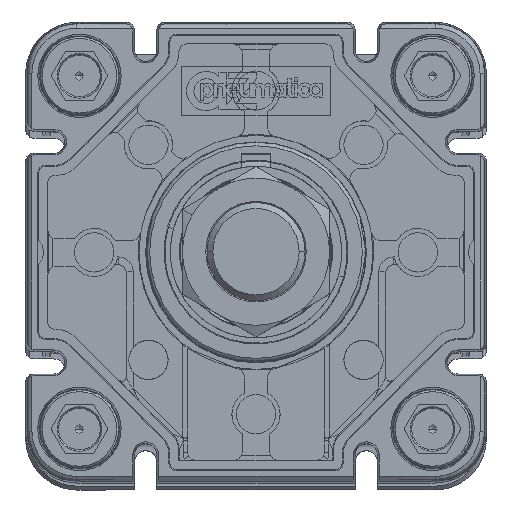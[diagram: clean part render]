
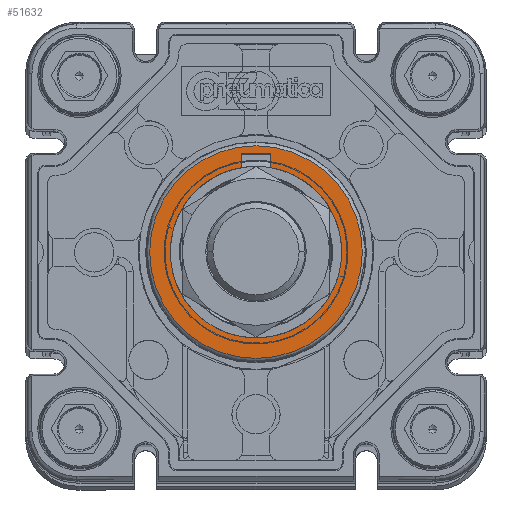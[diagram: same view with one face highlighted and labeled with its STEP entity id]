
A CAD part, top view. The second image highlights one B-rep face of the part: STEP entity #51632.
In plain terms, the highlighted planar face has unit normal (0, 0, 1) as drawn and (0, 0, -1) by its records, which use the part's own axes.
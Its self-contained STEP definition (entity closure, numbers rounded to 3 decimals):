
#98 = CARTESIAN_POINT ( 'NONE',  ( 0., 0., -68.1 ) ) ;
#1138 = DIRECTION ( 'NONE',  ( -1., 0., 0. ) ) ;
#3252 = DIRECTION ( 'NONE',  ( -1., 0., 0. ) ) ;
#3631 = DIRECTION ( 'NONE',  ( 0., 0., 1. ) ) ;
#4000 = CARTESIAN_POINT ( 'NONE',  ( 0., 0., -68.1 ) ) ;
#6052 = CARTESIAN_POINT ( 'NONE',  ( 0., 0., -68.1 ) ) ;
#8279 = DIRECTION ( 'NONE',  ( 0., 0., 1. ) ) ;
#9420 = CARTESIAN_POINT ( 'NONE',  ( 3., 20., -68.1 ) ) ;
#10716 = CIRCLE ( 'NONE', #50027, 17.5 ) ;
#12362 = LINE ( 'NONE', #19123, #45679 ) ;
#13375 = EDGE_CURVE ( 'NONE', #44526, #47177, #12362, .T. ) ;
#13522 = ORIENTED_EDGE ( 'NONE', *, *, #18721, .T. ) ;
#13528 = DIRECTION ( 'NONE',  ( 0., 1., 0. ) ) ;
#13599 = DIRECTION ( 'NONE',  ( 0., 0., -1. ) ) ;
#13648 = EDGE_CURVE ( 'NONE', #36637, #44526, #42290, .T. ) ;
#15301 = CARTESIAN_POINT ( 'NONE',  ( -21.674, 0., -68.1 ) ) ;
#15748 = EDGE_LOOP ( 'NONE', ( #15851, #13522, #24008, #45090, #23926 ) ) ;
#15851 = ORIENTED_EDGE ( 'NONE', *, *, #32779, .T. ) ;
#16952 = EDGE_LOOP ( 'NONE', ( #18764, #43340 ) ) ;
#18581 = VERTEX_POINT ( 'NONE', #53687 ) ;
#18721 = EDGE_CURVE ( 'NONE', #39346, #23476, #46199, .T. ) ;
#18764 = ORIENTED_EDGE ( 'NONE', *, *, #21661, .F. ) ;
#19123 = CARTESIAN_POINT ( 'NONE',  ( 3., 20., -68.1 ) ) ;
#19953 = CIRCLE ( 'NONE', #49325, 21.674 ) ;
#21661 = EDGE_CURVE ( 'NONE', #47581, #18581, #30797, .T. ) ;
#22345 = EDGE_CURVE ( 'NONE', #23476, #36637, #10716, .T. ) ;
#22768 = CARTESIAN_POINT ( 'NONE',  ( 3., 20., -68.1 ) ) ;
#22852 = PLANE ( 'NONE',  #37991 ) ;
#23403 = DIRECTION ( 'NONE',  ( -1., 0., 0. ) ) ;
#23476 = VERTEX_POINT ( 'NONE', #54004 ) ;
#23926 = ORIENTED_EDGE ( 'NONE', *, *, #13375, .T. ) ;
#24008 = ORIENTED_EDGE ( 'NONE', *, *, #22345, .T. ) ;
#25398 = DIRECTION ( 'NONE',  ( -1., 0., 0. ) ) ;
#28856 = LINE ( 'NONE', #51385, #32831 ) ;
#30797 = CIRCLE ( 'NONE', #50362, 21.674 ) ;
#30950 = VECTOR ( 'NONE', #13528, 1000. ) ;
#32089 = FACE_BOUND ( 'NONE', #15748, .T. ) ;
#32779 = EDGE_CURVE ( 'NONE', #47177, #39346, #28856, .T. ) ;
#32831 = VECTOR ( 'NONE', #37784, 1000. ) ;
#33353 = DIRECTION ( 'NONE',  ( 0., -1., 0. ) ) ;
#34834 = CARTESIAN_POINT ( 'NONE',  ( 3., 17.241, -68.1 ) ) ;
#36637 = VERTEX_POINT ( 'NONE', #34834 ) ;
#37784 = DIRECTION ( 'NONE',  ( 0., -1., 0. ) ) ;
#37991 = AXIS2_PLACEMENT_3D ( 'NONE', #48021, #13599, #1138 ) ;
#38337 = CARTESIAN_POINT ( 'NONE',  ( -3., 20., -68.1 ) ) ;
#38715 = FACE_OUTER_BOUND ( 'NONE', #16952, .T. ) ;
#39346 = VERTEX_POINT ( 'NONE', #53066 ) ;
#41708 = DIRECTION ( 'NONE',  ( 0., 0., 1. ) ) ;
#42290 = LINE ( 'NONE', #9420, #30950 ) ;
#43340 = ORIENTED_EDGE ( 'NONE', *, *, #46061, .F. ) ;
#43836 = DIRECTION ( 'NONE',  ( 0., 0., 1. ) ) ;
#44389 = DIRECTION ( 'NONE',  ( 0., -1., 0. ) ) ;
#44526 = VERTEX_POINT ( 'NONE', #22768 ) ;
#45090 = ORIENTED_EDGE ( 'NONE', *, *, #13648, .T. ) ;
#45679 = VECTOR ( 'NONE', #23403, 1000. ) ;
#46061 = EDGE_CURVE ( 'NONE', #18581, #47581, #19953, .T. ) ;
#46199 = CIRCLE ( 'NONE', #49069, 17.5 ) ;
#47177 = VERTEX_POINT ( 'NONE', #38337 ) ;
#47581 = VERTEX_POINT ( 'NONE', #15301 ) ;
#48021 = CARTESIAN_POINT ( 'NONE',  ( 0., 0., -68.1 ) ) ;
#49069 = AXIS2_PLACEMENT_3D ( 'NONE', #98, #3631, #33353 ) ;
#49325 = AXIS2_PLACEMENT_3D ( 'NONE', #54436, #41708, #3252 ) ;
#50027 = AXIS2_PLACEMENT_3D ( 'NONE', #6052, #43836, #44389 ) ;
#50362 = AXIS2_PLACEMENT_3D ( 'NONE', #4000, #8279, #25398 ) ;
#51385 = CARTESIAN_POINT ( 'NONE',  ( -3., 20., -68.1 ) ) ;
#51632 = ADVANCED_FACE ( 'NONE', ( #38715, #32089 ), #22852, .T. ) ;
#53066 = CARTESIAN_POINT ( 'NONE',  ( -3., 17.241, -68.1 ) ) ;
#53687 = CARTESIAN_POINT ( 'NONE',  ( 21.674, 0., -68.1 ) ) ;
#54004 = CARTESIAN_POINT ( 'NONE',  ( 0., -17.5, -68.1 ) ) ;
#54436 = CARTESIAN_POINT ( 'NONE',  ( 0., 0., -68.1 ) ) ;
